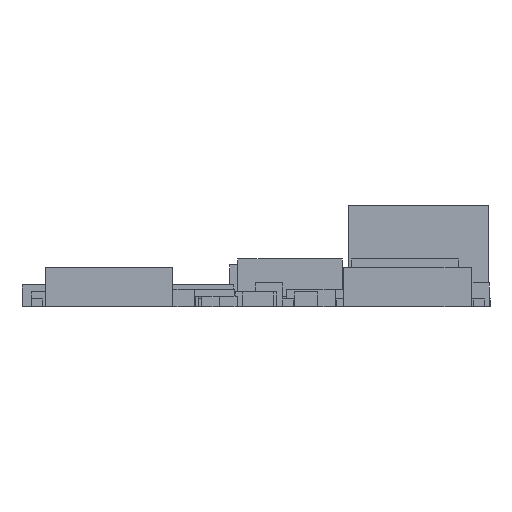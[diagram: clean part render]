
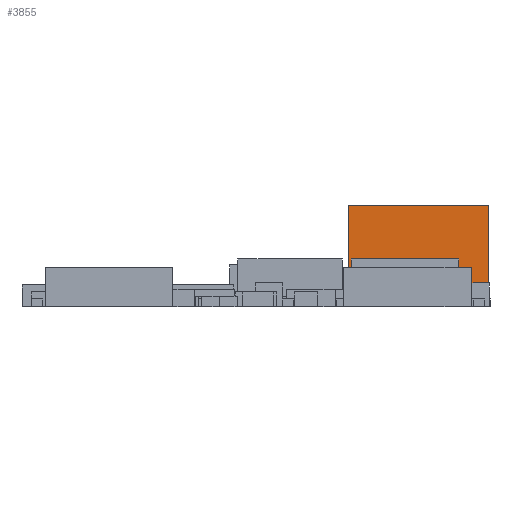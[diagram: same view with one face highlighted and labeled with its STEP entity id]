
A CAD part, front view. The second image highlights one B-rep face of the part: STEP entity #3855.
In plain terms, the highlighted planar face has unit normal (0, -1, 0).
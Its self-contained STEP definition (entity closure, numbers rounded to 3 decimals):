
#3639 = EDGE_CURVE('',#3640,#3642,#3644,.T.);
#3640 = VERTEX_POINT('',#3641);
#3641 = CARTESIAN_POINT('',(7.53,-15.26,7.3));
#3642 = VERTEX_POINT('',#3643);
#3643 = CARTESIAN_POINT('',(7.53,-15.26,15.8));
#3644 = SURFACE_CURVE('',#3645,(#3649,#3661),.PCURVE_S1.);
#3645 = LINE('',#3646,#3647);
#3646 = CARTESIAN_POINT('',(7.53,-15.26,7.3));
#3647 = VECTOR('',#3648,1.);
#3648 = DIRECTION('',(0.,0.,1.));
#3649 = PCURVE('',#3650,#3655);
#3650 = PLANE('',#3651);
#3651 = AXIS2_PLACEMENT_3D('',#3652,#3653,#3654);
#3652 = CARTESIAN_POINT('',(7.53,-15.26,7.3));
#3653 = DIRECTION('',(1.,0.,-0.));
#3654 = DIRECTION('',(0.,0.,1.));
#3655 = DEFINITIONAL_REPRESENTATION('',(#3656),#3660);
#3656 = LINE('',#3657,#3658);
#3657 = CARTESIAN_POINT('',(0.,0.));
#3658 = VECTOR('',#3659,1.);
#3659 = DIRECTION('',(1.,0.));
#3660 = ( GEOMETRIC_REPRESENTATION_CONTEXT(2) 
PARAMETRIC_REPRESENTATION_CONTEXT() REPRESENTATION_CONTEXT('2D SPACE',''
  ) );
#3661 = PCURVE('',#3662,#3667);
#3662 = PLANE('',#3663);
#3663 = AXIS2_PLACEMENT_3D('',#3664,#3665,#3666);
#3664 = CARTESIAN_POINT('',(7.53,-15.26,7.3));
#3665 = DIRECTION('',(-0.,1.,0.));
#3666 = DIRECTION('',(0.,0.,1.));
#3667 = DEFINITIONAL_REPRESENTATION('',(#3668),#3672);
#3668 = LINE('',#3669,#3670);
#3669 = CARTESIAN_POINT('',(0.,0.));
#3670 = VECTOR('',#3671,1.);
#3671 = DIRECTION('',(1.,0.));
#3672 = ( GEOMETRIC_REPRESENTATION_CONTEXT(2) 
PARAMETRIC_REPRESENTATION_CONTEXT() REPRESENTATION_CONTEXT('2D SPACE',''
  ) );
#3690 = PLANE('',#3691);
#3691 = AXIS2_PLACEMENT_3D('',#3692,#3693,#3694);
#3692 = CARTESIAN_POINT('',(7.53,-15.26,7.3));
#3693 = DIRECTION('',(0.,0.,1.));
#3694 = DIRECTION('',(1.,0.,-0.));
#3744 = PLANE('',#3745);
#3745 = AXIS2_PLACEMENT_3D('',#3746,#3747,#3748);
#3746 = CARTESIAN_POINT('',(7.53,-15.26,15.8));
#3747 = DIRECTION('',(0.,0.,1.));
#3748 = DIRECTION('',(1.,0.,-0.));
#3759 = EDGE_CURVE('',#3760,#3762,#3764,.T.);
#3760 = VERTEX_POINT('',#3761);
#3761 = CARTESIAN_POINT('',(19.27,-15.26,7.3));
#3762 = VERTEX_POINT('',#3763);
#3763 = CARTESIAN_POINT('',(19.27,-15.26,15.8));
#3764 = SURFACE_CURVE('',#3765,(#3769,#3781),.PCURVE_S1.);
#3765 = LINE('',#3766,#3767);
#3766 = CARTESIAN_POINT('',(19.27,-15.26,7.3));
#3767 = VECTOR('',#3768,1.);
#3768 = DIRECTION('',(0.,0.,1.));
#3769 = PCURVE('',#3770,#3775);
#3770 = PLANE('',#3771);
#3771 = AXIS2_PLACEMENT_3D('',#3772,#3773,#3774);
#3772 = CARTESIAN_POINT('',(19.27,-15.26,7.3));
#3773 = DIRECTION('',(1.,0.,-0.));
#3774 = DIRECTION('',(0.,0.,1.));
#3775 = DEFINITIONAL_REPRESENTATION('',(#3776),#3780);
#3776 = LINE('',#3777,#3778);
#3777 = CARTESIAN_POINT('',(0.,0.));
#3778 = VECTOR('',#3779,1.);
#3779 = DIRECTION('',(1.,0.));
#3780 = ( GEOMETRIC_REPRESENTATION_CONTEXT(2) 
PARAMETRIC_REPRESENTATION_CONTEXT() REPRESENTATION_CONTEXT('2D SPACE',''
  ) );
#3781 = PCURVE('',#3662,#3782);
#3782 = DEFINITIONAL_REPRESENTATION('',(#3783),#3787);
#3783 = LINE('',#3784,#3785);
#3784 = CARTESIAN_POINT('',(0.,11.74));
#3785 = VECTOR('',#3786,1.);
#3786 = DIRECTION('',(1.,0.));
#3787 = ( GEOMETRIC_REPRESENTATION_CONTEXT(2) 
PARAMETRIC_REPRESENTATION_CONTEXT() REPRESENTATION_CONTEXT('2D SPACE',''
  ) );
#3855 = ADVANCED_FACE('',(#3856),#3662,.F.);
#3856 = FACE_BOUND('',#3857,.F.);
#3857 = EDGE_LOOP('',(#3858,#3879,#3880,#3901));
#3858 = ORIENTED_EDGE('',*,*,#3859,.F.);
#3859 = EDGE_CURVE('',#3640,#3760,#3860,.T.);
#3860 = SURFACE_CURVE('',#3861,(#3865,#3872),.PCURVE_S1.);
#3861 = LINE('',#3862,#3863);
#3862 = CARTESIAN_POINT('',(7.53,-15.26,7.3));
#3863 = VECTOR('',#3864,1.);
#3864 = DIRECTION('',(1.,0.,-0.));
#3865 = PCURVE('',#3662,#3866);
#3866 = DEFINITIONAL_REPRESENTATION('',(#3867),#3871);
#3867 = LINE('',#3868,#3869);
#3868 = CARTESIAN_POINT('',(0.,0.));
#3869 = VECTOR('',#3870,1.);
#3870 = DIRECTION('',(0.,1.));
#3871 = ( GEOMETRIC_REPRESENTATION_CONTEXT(2) 
PARAMETRIC_REPRESENTATION_CONTEXT() REPRESENTATION_CONTEXT('2D SPACE',''
  ) );
#3872 = PCURVE('',#3690,#3873);
#3873 = DEFINITIONAL_REPRESENTATION('',(#3874),#3878);
#3874 = LINE('',#3875,#3876);
#3875 = CARTESIAN_POINT('',(0.,0.));
#3876 = VECTOR('',#3877,1.);
#3877 = DIRECTION('',(1.,0.));
#3878 = ( GEOMETRIC_REPRESENTATION_CONTEXT(2) 
PARAMETRIC_REPRESENTATION_CONTEXT() REPRESENTATION_CONTEXT('2D SPACE',''
  ) );
#3879 = ORIENTED_EDGE('',*,*,#3639,.T.);
#3880 = ORIENTED_EDGE('',*,*,#3881,.T.);
#3881 = EDGE_CURVE('',#3642,#3762,#3882,.T.);
#3882 = SURFACE_CURVE('',#3883,(#3887,#3894),.PCURVE_S1.);
#3883 = LINE('',#3884,#3885);
#3884 = CARTESIAN_POINT('',(7.53,-15.26,15.8));
#3885 = VECTOR('',#3886,1.);
#3886 = DIRECTION('',(1.,0.,-0.));
#3887 = PCURVE('',#3662,#3888);
#3888 = DEFINITIONAL_REPRESENTATION('',(#3889),#3893);
#3889 = LINE('',#3890,#3891);
#3890 = CARTESIAN_POINT('',(8.5,0.));
#3891 = VECTOR('',#3892,1.);
#3892 = DIRECTION('',(0.,1.));
#3893 = ( GEOMETRIC_REPRESENTATION_CONTEXT(2) 
PARAMETRIC_REPRESENTATION_CONTEXT() REPRESENTATION_CONTEXT('2D SPACE',''
  ) );
#3894 = PCURVE('',#3744,#3895);
#3895 = DEFINITIONAL_REPRESENTATION('',(#3896),#3900);
#3896 = LINE('',#3897,#3898);
#3897 = CARTESIAN_POINT('',(0.,0.));
#3898 = VECTOR('',#3899,1.);
#3899 = DIRECTION('',(1.,0.));
#3900 = ( GEOMETRIC_REPRESENTATION_CONTEXT(2) 
PARAMETRIC_REPRESENTATION_CONTEXT() REPRESENTATION_CONTEXT('2D SPACE',''
  ) );
#3901 = ORIENTED_EDGE('',*,*,#3759,.F.);
